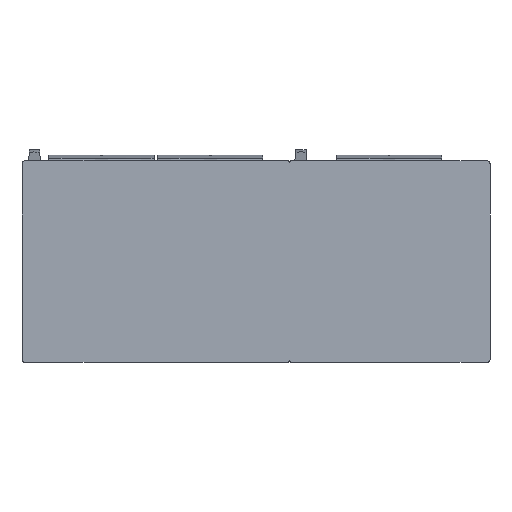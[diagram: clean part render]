
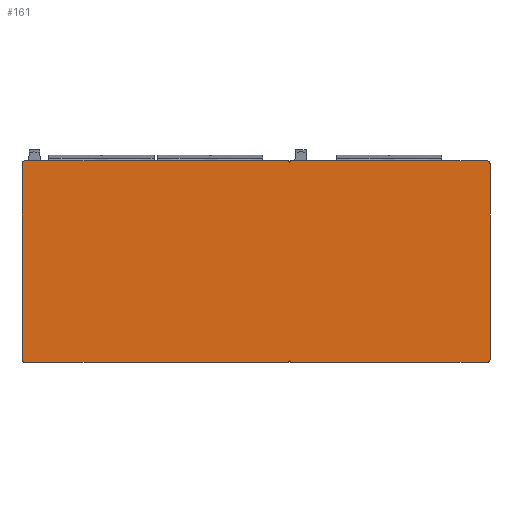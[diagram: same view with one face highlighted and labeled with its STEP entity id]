
A CAD part, front view. The second image highlights one B-rep face of the part: STEP entity #161.
In plain terms, the highlighted planar face has unit normal (0, -1, 0).
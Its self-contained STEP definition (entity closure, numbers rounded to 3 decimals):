
#161=ADVANCED_FACE('Corps de pi\X2\00E8\X0\ce.1',(#391),#392,.T.);
#391=FACE_OUTER_BOUND('',#768,.T.);
#392=PLANE('',#769);
#768=EDGE_LOOP('',(#1657,#1658,#1659,#1660,#1661,#1662,#1663,#1664,#1665,#1666,#1667,#1668,#1669,#1670,#1671,#1672,#1673,#1674));
#769=AXIS2_PLACEMENT_3D('',#1675,#1676,#1677);
#1657=ORIENTED_EDGE('',*,*,#1968,.T.);
#1658=ORIENTED_EDGE('',*,*,#1936,.T.);
#1659=ORIENTED_EDGE('',*,*,#1939,.T.);
#1660=ORIENTED_EDGE('',*,*,#1942,.T.);
#1661=ORIENTED_EDGE('',*,*,#1943,.T.);
#1662=ORIENTED_EDGE('',*,*,#1947,.T.);
#1663=ORIENTED_EDGE('',*,*,#1950,.T.);
#1664=ORIENTED_EDGE('',*,*,#1953,.T.);
#1665=ORIENTED_EDGE('',*,*,#1955,.T.);
#1666=ORIENTED_EDGE('',*,*,#1960,.T.);
#1667=ORIENTED_EDGE('',*,*,#1963,.T.);
#1668=ORIENTED_EDGE('',*,*,#1966,.T.);
#1669=ORIENTED_EDGE('',*,*,#1971,.T.);
#1670=ORIENTED_EDGE('',*,*,#1930,.T.);
#1671=ORIENTED_EDGE('',*,*,#1927,.T.);
#1672=ORIENTED_EDGE('',*,*,#1924,.T.);
#1673=ORIENTED_EDGE('',*,*,#1921,.T.);
#1674=ORIENTED_EDGE('',*,*,#1973,.T.);
#1675=CARTESIAN_POINT('',(-400.0,-221.0,300.0));
#1676=DIRECTION('',(0.0,-1.0,0.0));
#1677=DIRECTION('',(0.0,0.0,-1.0));
#1921=EDGE_CURVE('',#2369,#2366,#2370,.F.);
#1924=EDGE_CURVE('',#2374,#2369,#2375,.F.);
#1927=EDGE_CURVE('',#2379,#2374,#2380,.T.);
#1930=EDGE_CURVE('',#2384,#2379,#2385,.T.);
#1936=EDGE_CURVE('',#2390,#2394,#2396,.F.);
#1939=EDGE_CURVE('',#2394,#2399,#2401,.T.);
#1942=EDGE_CURVE('',#2399,#2404,#2406,.F.);
#1943=EDGE_CURVE('',#2404,#2407,#2408,.T.);
#1947=EDGE_CURVE('',#2407,#2412,#2415,.F.);
#1950=EDGE_CURVE('',#2412,#2417,#2420,.F.);
#1953=EDGE_CURVE('',#2417,#2422,#2425,.F.);
#1955=EDGE_CURVE('',#2422,#2427,#2428,.F.);
#1960=EDGE_CURVE('',#2427,#2434,#2436,.T.);
#1963=EDGE_CURVE('',#2434,#2439,#2441,.F.);
#1966=EDGE_CURVE('',#2439,#2444,#2446,.T.);
#1968=EDGE_CURVE('',#2449,#2390,#2450,.T.);
#1971=EDGE_CURVE('',#2444,#2384,#2453,.F.);
#1973=EDGE_CURVE('',#2366,#2449,#2455,.T.);
#2366=VERTEX_POINT('',#3239);
#2369=VERTEX_POINT('',#3243);
#2370=CIRCLE('',#3244,2.5);
#2374=VERTEX_POINT('',#3249);
#2375=CIRCLE('',#3250,2.5);
#2379=VERTEX_POINT('',#3255);
#2380=LINE('',#3256,#3257);
#2384=VERTEX_POINT('',#3263);
#2385=LINE('',#3264,#3265);
#2390=VERTEX_POINT('',#3272);
#2394=VERTEX_POINT('',#3277);
#2396=CIRCLE('',#3280,8.6);
#2399=VERTEX_POINT('',#3284);
#2401=LINE('',#3287,#3288);
#2404=VERTEX_POINT('',#3291);
#2406=CIRCLE('',#3294,8.6);
#2407=VERTEX_POINT('',#3295);
#2408=LINE('',#3296,#3297);
#2412=VERTEX_POINT('',#3303);
#2415=LINE('',#3307,#3308);
#2417=VERTEX_POINT('',#3311);
#2420=CIRCLE('',#3315,2.5);
#2422=VERTEX_POINT('',#3317);
#2425=CIRCLE('',#3321,2.5);
#2427=VERTEX_POINT('',#3323);
#2428=LINE('',#3324,#3325);
#2434=VERTEX_POINT('',#3334);
#2436=LINE('',#3337,#3338);
#2439=VERTEX_POINT('',#3341);
#2441=CIRCLE('',#3344,8.6);
#2444=VERTEX_POINT('',#3348);
#2446=LINE('',#3351,#3352);
#2449=VERTEX_POINT('',#3356);
#2450=LINE('',#3357,#3358);
#2453=CIRCLE('',#3362,8.6);
#2455=LINE('',#3365,#3366);
#3239=CARTESIAN_POINT('',(402.5,-221.0,-300.0));
#3243=CARTESIAN_POINT('',(400.0,-221.0,-297.5));
#3244=AXIS2_PLACEMENT_3D('',#3650,#3651,#3652);
#3249=CARTESIAN_POINT('',(397.5,-221.0,-300.0));
#3250=AXIS2_PLACEMENT_3D('',#3657,#3658,#3659);
#3255=CARTESIAN_POINT('',(397.5,-221.0,-302.5));
#3256=CARTESIAN_POINT('',(397.5,-221.0,-301.25));
#3257=VECTOR('',#3664,1.0);
#3263=CARTESIAN_POINT('',(-393.9,-221.0,-302.5));
#3264=CARTESIAN_POINT('',(1.8,-221.0,-302.5));
#3265=VECTOR('',#3667,1.0);
#3272=CARTESIAN_POINT('',(993.9,-221.0,-302.5));
#3277=CARTESIAN_POINT('',(1002.5,-221.0,-293.9));
#3280=AXIS2_PLACEMENT_3D('',#3675,#3676,#3677);
#3284=CARTESIAN_POINT('',(1002.5,-221.0,293.9));
#3287=CARTESIAN_POINT('',(1002.5,-221.0,0.));
#3288=VECTOR('',#3680,1.0);
#3291=CARTESIAN_POINT('',(993.9,-221.0,302.5));
#3294=AXIS2_PLACEMENT_3D('',#3685,#3686,#3687);
#3295=CARTESIAN_POINT('',(402.5,-221.0,302.5));
#3296=CARTESIAN_POINT('',(698.2,-221.0,302.5));
#3297=VECTOR('',#3688,1.0);
#3303=CARTESIAN_POINT('',(402.5,-221.0,300.0));
#3307=CARTESIAN_POINT('',(402.5,-221.0,301.25));
#3308=VECTOR('',#3692,1.0);
#3311=CARTESIAN_POINT('',(400.0,-221.0,297.5));
#3315=AXIS2_PLACEMENT_3D('',#3695,#3696,#3697);
#3317=CARTESIAN_POINT('',(397.5,-221.0,300.0));
#3321=AXIS2_PLACEMENT_3D('',#3702,#3703,#3704);
#3323=CARTESIAN_POINT('',(397.5,-221.0,302.5));
#3324=CARTESIAN_POINT('',(397.5,-221.0,301.25));
#3325=VECTOR('',#3708,1.0);
#3334=CARTESIAN_POINT('',(-393.9,-221.0,302.5));
#3337=CARTESIAN_POINT('',(1.8,-221.0,302.5));
#3338=VECTOR('',#3713,1.0);
#3341=CARTESIAN_POINT('',(-402.5,-221.0,293.9));
#3344=AXIS2_PLACEMENT_3D('',#3718,#3719,#3720);
#3348=CARTESIAN_POINT('',(-402.5,-221.0,-293.9));
#3351=CARTESIAN_POINT('',(-402.5,-221.0,0.));
#3352=VECTOR('',#3723,1.0);
#3356=CARTESIAN_POINT('',(402.5,-221.0,-302.5));
#3357=CARTESIAN_POINT('',(698.2,-221.0,-302.5));
#3358=VECTOR('',#3725,1.0);
#3362=AXIS2_PLACEMENT_3D('',#3730,#3731,#3732);
#3365=CARTESIAN_POINT('',(402.5,-221.0,-301.25));
#3366=VECTOR('',#3734,1.0);
#3650=CARTESIAN_POINT('',(402.5,-221.0,-297.5));
#3651=DIRECTION('',(0.0,1.0,-0.0));
#3652=DIRECTION('',(1.0,0.0,0.0));
#3657=CARTESIAN_POINT('',(397.5,-221.0,-297.5));
#3658=DIRECTION('',(0.0,1.0,-0.0));
#3659=DIRECTION('',(1.0,0.0,0.0));
#3664=DIRECTION('',(0.0,0.0,1.0));
#3667=DIRECTION('',(1.0,0.0,0.0));
#3675=CARTESIAN_POINT('',(993.9,-221.0,-293.9));
#3676=DIRECTION('',(-0.0,1.0,0.0));
#3677=DIRECTION('',(1.0,0.0,0.0));
#3680=DIRECTION('',(0.0,0.0,1.0));
#3685=CARTESIAN_POINT('',(993.9,-221.0,293.9));
#3686=DIRECTION('',(-0.0,1.0,0.0));
#3687=DIRECTION('',(1.0,0.0,0.0));
#3688=DIRECTION('',(-1.0,0.0,0.0));
#3692=DIRECTION('',(0.0,0.0,1.0));
#3695=CARTESIAN_POINT('',(402.5,-221.0,297.5));
#3696=DIRECTION('',(0.0,1.0,-0.0));
#3697=DIRECTION('',(1.0,0.0,0.0));
#3702=CARTESIAN_POINT('',(397.5,-221.0,297.5));
#3703=DIRECTION('',(0.0,1.0,-0.0));
#3704=DIRECTION('',(1.0,0.0,0.0));
#3708=DIRECTION('',(0.0,0.0,-1.0));
#3713=DIRECTION('',(-1.0,0.0,0.0));
#3718=CARTESIAN_POINT('',(-393.9,-221.0,293.9));
#3719=DIRECTION('',(-0.0,1.0,0.0));
#3720=DIRECTION('',(1.0,0.0,0.0));
#3723=DIRECTION('',(0.0,0.0,-1.0));
#3725=DIRECTION('',(1.0,0.0,0.0));
#3730=CARTESIAN_POINT('',(-393.9,-221.0,-293.9));
#3731=DIRECTION('',(-0.0,1.0,0.0));
#3732=DIRECTION('',(1.0,0.0,0.0));
#3734=DIRECTION('',(0.0,0.0,-1.0));
